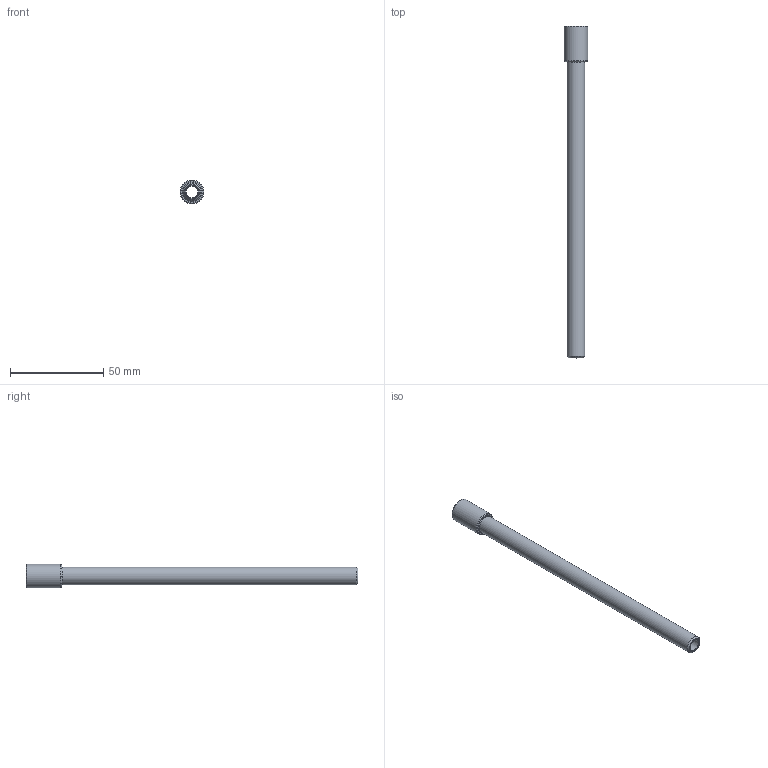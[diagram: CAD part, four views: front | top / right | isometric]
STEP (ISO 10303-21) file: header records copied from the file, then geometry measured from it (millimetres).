
FILE_DESCRIPTION(/* description */ (''),/* implementation_level */ '2;1');
FILE_NAME(/* name */ 'C:/Users/drich/Desktop/EP18X7 v1.step',/* time_stamp */ '2019-11-18T15:04:15-06:00',/* author */ (''),/* organization */ (''),/* preprocessor_version */ 'ST-DEVELOPER v18',/* originating_system */ 'Autodesk Translation Framework v8.12.0.6',/* authorisation */ '');
FILE_SCHEMA (('AUTOMOTIVE_DESIGN { 1 0 10303 214 3 1 1 }'));
Length unit declared in the file: inch
Products named in the file (2): EP18X7; EP18X4
Assembly tree (1 placements, depth 2):
  EP18X7
    EP18X4
Bounding box: 12.7 x 177.8 x 12.7 mm (x, y, z)
Volume: 7960.4 mm3; surface area: 9348.2 mm2
Topology: 1 solids, 1 shells, 23 faces, 55 edges, 37 vertices
Faces by surface type: plane 11, cone 7, cylinder 5
Full cylindrical faces by diameter (mm): 6.35 x1, 7.62 x1, 8.707 x1, 9.621 x1, 12.7 x1
Entity records: 740 total; most frequent: CARTESIAN_POINT 132, DIRECTION 124, ORIENTED_EDGE 110, EDGE_CURVE 55, AXIS2_PLACEMENT_3D 50, VERTEX_POINT 37, EDGE_LOOP 28, LINE 24
